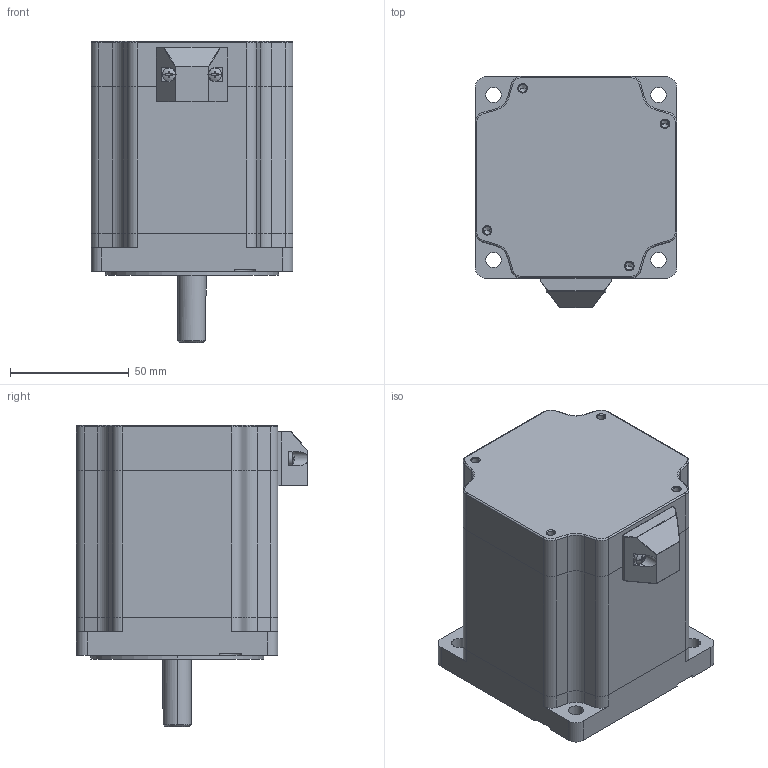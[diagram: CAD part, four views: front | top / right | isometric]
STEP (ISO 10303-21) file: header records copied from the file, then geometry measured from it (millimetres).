
FILE_DESCRIPTION (( 'STEP AP203' ), '1' );
FILE_NAME ('YK3910A-H.STEP', '2021-04-08T10:06:59', ( 'Admin' ), ( '' ), 'SwSTEP 2.0', 'SolidWorks 2016', '' );
FILE_SCHEMA (( 'CONFIG_CONTROL_DESIGN' ));
Length unit declared in the file: millimetre
Products named in the file (5): cross recessed pan head screws gb_GB_CROSS_SCREWS_TYPE1 M3X4-4  H type-N; YK39XXA; YK39XX盄縐; YK3910A-H; cross recessed countersunk head screws gb1_GB_CROSS_SCREWS_TYPE4 M4X10-7.3  H type-N
Assembly tree (8 placements, depth 2):
  YK3910A-H
    YK39XX盄縐
    YK39XXA
    cross recessed countersunk head screws gb1_GB_CROSS_SCREWS_TYPE4 M4X10-7.3  H type-N  x4
    cross recessed pan head screws gb_GB_CROSS_SCREWS_TYPE1 M3X4-4  H type-N  x2
Bounding box: 85 x 97.5 x 127 mm (x, y, z)
Volume: 639314 mm3; surface area: 51504.7 mm2
Topology: 8 solids, 8 shells, 411 faces, 1001 edges, 601 vertices
Faces by surface type: cylinder 168, plane 168, cone 49, sphere 14, torus 12
Entity records: 9499 total; most frequent: DIRECTION 1628, CARTESIAN_POINT 1602, ORIENTED_EDGE 1450, EDGE_CURVE 725, AXIS2_PLACEMENT_3D 607, VERTEX_POINT 437, LINE 414, VECTOR 414
